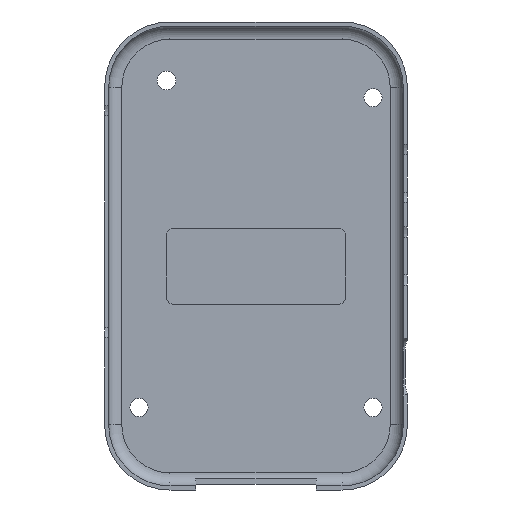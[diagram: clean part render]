
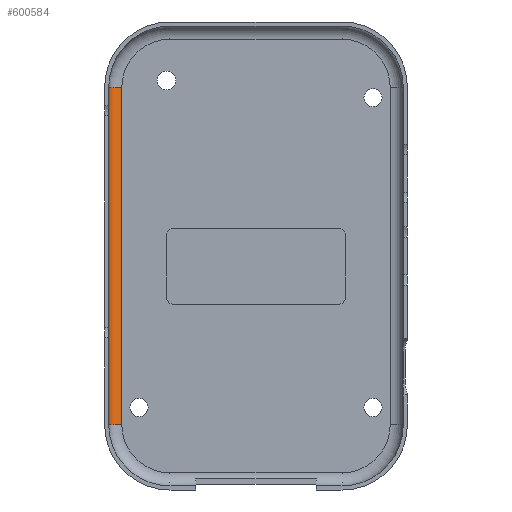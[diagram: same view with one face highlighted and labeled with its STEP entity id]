
A CAD part, top view. The second image highlights one B-rep face of the part: STEP entity #600584.
In plain terms, the highlighted cylindrical face has radius 3.8 mm (diameter 7.6 mm), a partial arc.
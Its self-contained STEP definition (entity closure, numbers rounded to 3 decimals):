
#608 = PLANE('',#609);
#609 = AXIS2_PLACEMENT_3D('',#610,#611,#612);
#610 = CARTESIAN_POINT('',(-42.8,-66.8,-12.4));
#611 = DIRECTION('',(1.,0.,0.));
#612 = DIRECTION('',(0.,0.,1.));
#218802 = VERTEX_POINT('',#218803);
#218803 = CARTESIAN_POINT('',(-42.8,-49.,-8.6));
#218839 = TOROIDAL_SURFACE('',#218840,14.,3.8);
#218840 = AXIS2_PLACEMENT_3D('',#218841,#218842,#218843);
#218841 = CARTESIAN_POINT('',(-25.,-49.,-8.6));
#218842 = DIRECTION('',(-0.,-0.,-1.));
#218843 = DIRECTION('',(0.,-1.,0.));
#218857 = EDGE_CURVE('',#218802,#218858,#218860,.T.);
#218858 = VERTEX_POINT('',#218859);
#218859 = CARTESIAN_POINT('',(-42.8,49.,-8.6));
#218860 = SURFACE_CURVE('',#218861,(#218865,#218872),.PCURVE_S1.);
#218861 = LINE('',#218862,#218863);
#218862 = CARTESIAN_POINT('',(-42.8,-49.,-8.6));
#218863 = VECTOR('',#218864,1.);
#218864 = DIRECTION('',(0.,1.,0.));
#218865 = PCURVE('',#608,#218866);
#218866 = DEFINITIONAL_REPRESENTATION('',(#218867),#218871);
#218867 = LINE('',#218868,#218869);
#218868 = CARTESIAN_POINT('',(3.8,-17.8));
#218869 = VECTOR('',#218870,1.);
#218870 = DIRECTION('',(0.,-1.));
#218871 = ( GEOMETRIC_REPRESENTATION_CONTEXT(2) 
PARAMETRIC_REPRESENTATION_CONTEXT() REPRESENTATION_CONTEXT('2D SPACE',''
  ) );
#218872 = PCURVE('',#218873,#218878);
#218873 = CYLINDRICAL_SURFACE('',#218874,3.8);
#218874 = AXIS2_PLACEMENT_3D('',#218875,#218876,#218877);
#218875 = CARTESIAN_POINT('',(-39.,-49.,-8.6));
#218876 = DIRECTION('',(0.,1.,0.));
#218877 = DIRECTION('',(-1.,0.,0.));
#218878 = DEFINITIONAL_REPRESENTATION('',(#218879),#218883);
#218879 = LINE('',#218880,#218881);
#218880 = CARTESIAN_POINT('',(6.283,0.));
#218881 = VECTOR('',#218882,1.);
#218882 = DIRECTION('',(-0.,1.));
#218883 = ( GEOMETRIC_REPRESENTATION_CONTEXT(2) 
PARAMETRIC_REPRESENTATION_CONTEXT() REPRESENTATION_CONTEXT('2D SPACE',''
  ) );
#218949 = TOROIDAL_SURFACE('',#218950,14.,3.8);
#218950 = AXIS2_PLACEMENT_3D('',#218951,#218952,#218953);
#218951 = CARTESIAN_POINT('',(-25.,49.,-8.6));
#218952 = DIRECTION('',(-0.,-0.,-1.));
#218953 = DIRECTION('',(-1.,0.,0.));
#220236 = PLANE('',#220237);
#220237 = AXIS2_PLACEMENT_3D('',#220238,#220239,#220240);
#220238 = CARTESIAN_POINT('',(-42.8,-66.8,-12.4));
#220239 = DIRECTION('',(0.,0.,1.));
#220240 = DIRECTION('',(1.,0.,-0.));
#600537 = EDGE_CURVE('',#218802,#600538,#600540,.T.);
#600538 = VERTEX_POINT('',#600539);
#600539 = CARTESIAN_POINT('',(-39.,-49.,-12.4));
#600540 = SURFACE_CURVE('',#600541,(#600546,#600552),.PCURVE_S1.);
#600541 = CIRCLE('',#600542,3.8);
#600542 = AXIS2_PLACEMENT_3D('',#600543,#600544,#600545);
#600543 = CARTESIAN_POINT('',(-39.,-49.,-8.6));
#600544 = DIRECTION('',(-0.,-1.,-0.));
#600545 = DIRECTION('',(-1.,0.,0.));
#600546 = PCURVE('',#218839,#600547);
#600547 = DEFINITIONAL_REPRESENTATION('',(#600548),#600551);
#600548 = B_SPLINE_CURVE_WITH_KNOTS('',1,(#600549,#600550),
  .UNSPECIFIED.,.F.,.F.,(2,2),(0.,1.571),
  .PIECEWISE_BEZIER_KNOTS.);
#600549 = CARTESIAN_POINT('',(1.571,0.));
#600550 = CARTESIAN_POINT('',(1.571,1.571));
#600551 = ( GEOMETRIC_REPRESENTATION_CONTEXT(2) 
PARAMETRIC_REPRESENTATION_CONTEXT() REPRESENTATION_CONTEXT('2D SPACE',''
  ) );
#600552 = PCURVE('',#218873,#600553);
#600553 = DEFINITIONAL_REPRESENTATION('',(#600554),#600557);
#600554 = B_SPLINE_CURVE_WITH_KNOTS('',1,(#600555,#600556),
  .UNSPECIFIED.,.F.,.F.,(2,2),(0.,1.571),
  .PIECEWISE_BEZIER_KNOTS.);
#600555 = CARTESIAN_POINT('',(6.283,0.));
#600556 = CARTESIAN_POINT('',(4.712,0.));
#600557 = ( GEOMETRIC_REPRESENTATION_CONTEXT(2) 
PARAMETRIC_REPRESENTATION_CONTEXT() REPRESENTATION_CONTEXT('2D SPACE',''
  ) );
#600584 = ADVANCED_FACE('',(#600585),#218873,.F.);
#600585 = FACE_BOUND('',#600586,.F.);
#600586 = EDGE_LOOP('',(#600587,#600588,#600610,#600631));
#600587 = ORIENTED_EDGE('',*,*,#218857,.T.);
#600588 = ORIENTED_EDGE('',*,*,#600589,.T.);
#600589 = EDGE_CURVE('',#218858,#600590,#600592,.T.);
#600590 = VERTEX_POINT('',#600591);
#600591 = CARTESIAN_POINT('',(-39.,49.,-12.4));
#600592 = SURFACE_CURVE('',#600593,(#600598,#600604),.PCURVE_S1.);
#600593 = CIRCLE('',#600594,3.8);
#600594 = AXIS2_PLACEMENT_3D('',#600595,#600596,#600597);
#600595 = CARTESIAN_POINT('',(-39.,49.,-8.6));
#600596 = DIRECTION('',(-0.,-1.,-0.));
#600597 = DIRECTION('',(-1.,0.,0.));
#600598 = PCURVE('',#218873,#600599);
#600599 = DEFINITIONAL_REPRESENTATION('',(#600600),#600603);
#600600 = B_SPLINE_CURVE_WITH_KNOTS('',1,(#600601,#600602),
  .UNSPECIFIED.,.F.,.F.,(2,2),(0.,1.571),
  .PIECEWISE_BEZIER_KNOTS.);
#600601 = CARTESIAN_POINT('',(6.283,98.));
#600602 = CARTESIAN_POINT('',(4.712,98.));
#600603 = ( GEOMETRIC_REPRESENTATION_CONTEXT(2) 
PARAMETRIC_REPRESENTATION_CONTEXT() REPRESENTATION_CONTEXT('2D SPACE',''
  ) );
#600604 = PCURVE('',#218949,#600605);
#600605 = DEFINITIONAL_REPRESENTATION('',(#600606),#600609);
#600606 = B_SPLINE_CURVE_WITH_KNOTS('',1,(#600607,#600608),
  .UNSPECIFIED.,.F.,.F.,(2,2),(0.,1.571),
  .PIECEWISE_BEZIER_KNOTS.);
#600607 = CARTESIAN_POINT('',(0.,0.));
#600608 = CARTESIAN_POINT('',(0.,1.571));
#600609 = ( GEOMETRIC_REPRESENTATION_CONTEXT(2) 
PARAMETRIC_REPRESENTATION_CONTEXT() REPRESENTATION_CONTEXT('2D SPACE',''
  ) );
#600610 = ORIENTED_EDGE('',*,*,#600611,.F.);
#600611 = EDGE_CURVE('',#600538,#600590,#600612,.T.);
#600612 = SURFACE_CURVE('',#600613,(#600617,#600624),.PCURVE_S1.);
#600613 = LINE('',#600614,#600615);
#600614 = CARTESIAN_POINT('',(-39.,-49.,-12.4));
#600615 = VECTOR('',#600616,1.);
#600616 = DIRECTION('',(0.,1.,0.));
#600617 = PCURVE('',#218873,#600618);
#600618 = DEFINITIONAL_REPRESENTATION('',(#600619),#600623);
#600619 = LINE('',#600620,#600621);
#600620 = CARTESIAN_POINT('',(4.712,0.));
#600621 = VECTOR('',#600622,1.);
#600622 = DIRECTION('',(-0.,1.));
#600623 = ( GEOMETRIC_REPRESENTATION_CONTEXT(2) 
PARAMETRIC_REPRESENTATION_CONTEXT() REPRESENTATION_CONTEXT('2D SPACE',''
  ) );
#600624 = PCURVE('',#220236,#600625);
#600625 = DEFINITIONAL_REPRESENTATION('',(#600626),#600630);
#600626 = LINE('',#600627,#600628);
#600627 = CARTESIAN_POINT('',(3.8,17.8));
#600628 = VECTOR('',#600629,1.);
#600629 = DIRECTION('',(0.,1.));
#600630 = ( GEOMETRIC_REPRESENTATION_CONTEXT(2) 
PARAMETRIC_REPRESENTATION_CONTEXT() REPRESENTATION_CONTEXT('2D SPACE',''
  ) );
#600631 = ORIENTED_EDGE('',*,*,#600537,.F.);
